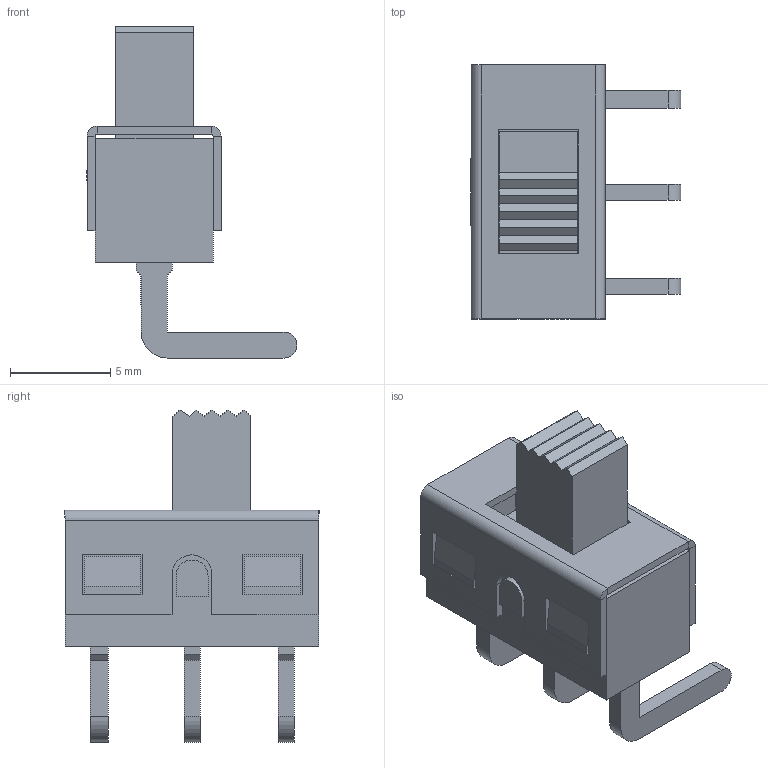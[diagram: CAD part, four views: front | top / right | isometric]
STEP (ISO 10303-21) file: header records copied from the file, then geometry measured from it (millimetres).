
FILE_DESCRIPTION(('STEP AP214'), '1');
FILE_NAME('ss12d06', '2024-08-15T01:59:34', (''), (''), 'C3D Converter', 'C3D Toolkit', '');
FILE_SCHEMA(('AUTOMOTIVE_DESIGN { 1 0 10303 214 3 1 1}'));
Length unit declared in the file: millimetre
Bounding box: 10.5 x 12.7 x 16.6 mm (x, y, z)
Volume: 469.8 mm3; surface area: 1376.9 mm2
Topology: 7 solids, 7 shells, 195 faces, 513 edges, 336 vertices
Faces by surface type: plane 181, cylinder 14
Entity records: 7547 total; most frequent: CARTESIAN_POINT 1045, ORIENTED_EDGE 1026, DIRECTION 933, EDGE_CURVE 513, LINE 485, VECTOR 485, VERTEX_POINT 336, AXIS2_PLACEMENT_3D 224
